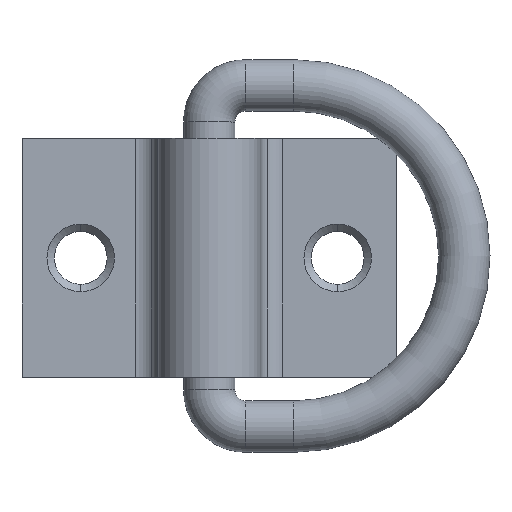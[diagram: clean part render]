
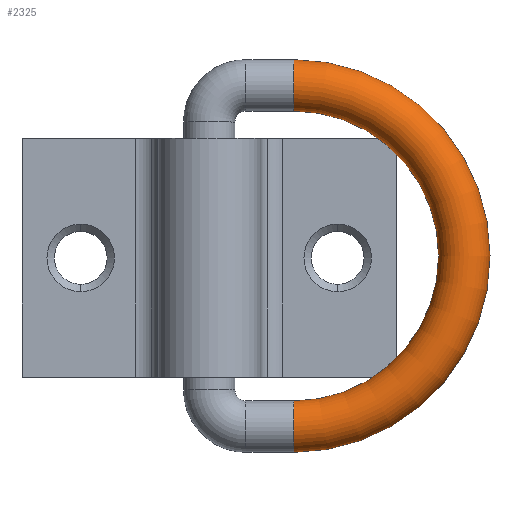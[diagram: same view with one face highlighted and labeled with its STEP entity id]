
A CAD part, top view. The second image highlights one B-rep face of the part: STEP entity #2325.
In plain terms, the highlighted toroidal (fillet/blend) face has major radius 23.25 mm and minor radius 3.5 mm.
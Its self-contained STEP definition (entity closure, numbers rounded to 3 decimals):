
#2282=CARTESIAN_POINT('',(-0.25,10.0,0.0));
#2283=DIRECTION('',(0.0,0.0,1.0));
#2284=DIRECTION('',(1.0,0.0,0.0));
#2285=AXIS2_PLACEMENT_3D('',#2282,#2283,#2284);
#2286=TOROIDAL_SURFACE('',#2285,23.25,3.5);
#2287=CARTESIAN_POINT('',(-27.,10.,0.));
#2288=VERTEX_POINT('',#2287);
#2289=CARTESIAN_POINT('',(26.5,10.,0.));
#2290=VERTEX_POINT('',#2289);
#2291=CARTESIAN_POINT('',(-0.25,10.0,0.));
#2292=DIRECTION('',(0.0,0.0,1.0));
#2293=DIRECTION('',(1.0,0.0,0.0));
#2294=AXIS2_PLACEMENT_3D('',#2291,#2292,#2293);
#2295=CIRCLE('',#2294,26.75);
#2296=EDGE_CURVE('',#2288,#2290,#2295,.T.);
#2297=ORIENTED_EDGE('',*,*,#2296,.F.);
#2298=CARTESIAN_POINT('',(-20.,10.,0.0));
#2299=VERTEX_POINT('',#2298);
#2300=CARTESIAN_POINT('',(-23.5,10.,0.0));
#2301=DIRECTION('',(0.0,1.0,0.0));
#2302=DIRECTION('',(1.0,0.0,0.0));
#2303=AXIS2_PLACEMENT_3D('',#2300,#2301,#2302);
#2304=CIRCLE('',#2303,3.5);
#2305=EDGE_CURVE('',#2299,#2288,#2304,.T.);
#2306=ORIENTED_EDGE('',*,*,#2305,.F.);
#2307=CARTESIAN_POINT('',(19.5,10.,0.0));
#2308=VERTEX_POINT('',#2307);
#2309=CARTESIAN_POINT('',(-0.25,10.0,0.));
#2310=DIRECTION('',(0.0,0.0,-1.0));
#2311=DIRECTION('',(1.0,0.0,0.0));
#2312=AXIS2_PLACEMENT_3D('',#2309,#2310,#2311);
#2313=CIRCLE('',#2312,19.75);
#2314=EDGE_CURVE('',#2308,#2299,#2313,.T.);
#2315=ORIENTED_EDGE('',*,*,#2314,.F.);
#2316=CARTESIAN_POINT('',(23.,10.,0.0));
#2317=DIRECTION('',(0.0,-1.0,0.0));
#2318=DIRECTION('',(-1.0,0.0,0.0));
#2319=AXIS2_PLACEMENT_3D('',#2316,#2317,#2318);
#2320=CIRCLE('',#2319,3.5);
#2321=EDGE_CURVE('',#2308,#2290,#2320,.T.);
#2322=ORIENTED_EDGE('',*,*,#2321,.T.);
#2323=EDGE_LOOP('',(#2297,#2306,#2315,#2322));
#2324=FACE_OUTER_BOUND('',#2323,.T.);
#2325=ADVANCED_FACE('',(#2324),#2286,.T.);
